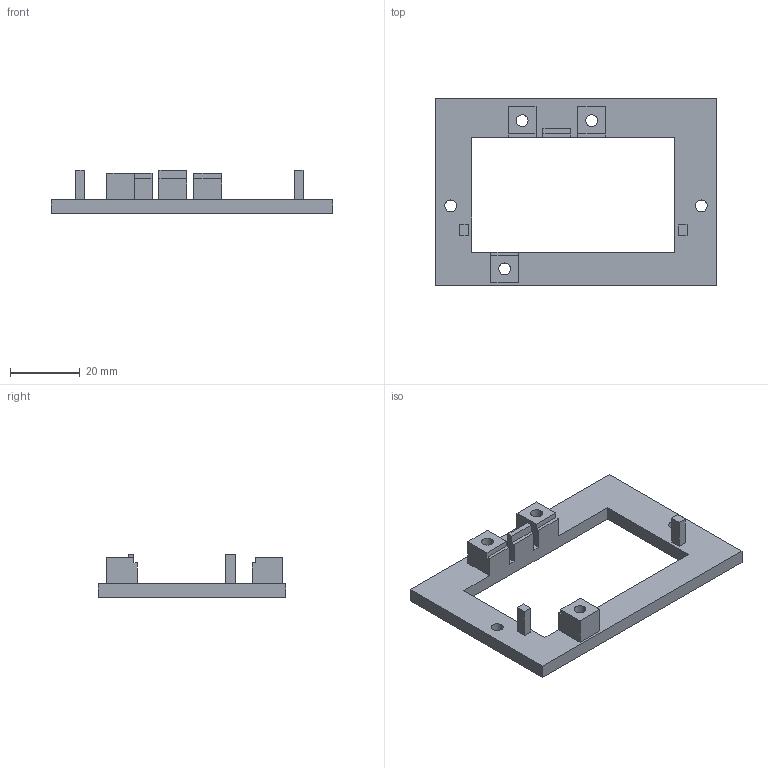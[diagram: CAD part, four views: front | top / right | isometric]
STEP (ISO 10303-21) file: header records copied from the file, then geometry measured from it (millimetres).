
FILE_DESCRIPTION (( 'STEP AP203' ), '1' );
FILE_NAME ('10_receiver_edge_tray.step', '2026-10-07T08:22:27', ( '' ), ( '' ), 'SwSTEP 2.0', 'SolidWorks 2025', '' );
FILE_SCHEMA (( 'CONFIG_CONTROL_DESIGN' ));
Length unit declared in the file: millimetre
Products named in the file (1): 10_receiver_edge_tray
Bounding box: 81 x 54 x 12.4 mm (x, y, z)
Volume: 11235.7 mm3; surface area: 8182 mm2
Topology: 1 solids, 1 shells, 54 faces, 150 edges, 100 vertices
Faces by surface type: plane 44, cylinder 10
Entity records: 1815 total; most frequent: CARTESIAN_POINT 305, ORIENTED_EDGE 300, DIRECTION 280, EDGE_CURVE 150, VECTOR 130, LINE 130, VERTEX_POINT 100, AXIS2_PLACEMENT_3D 75
